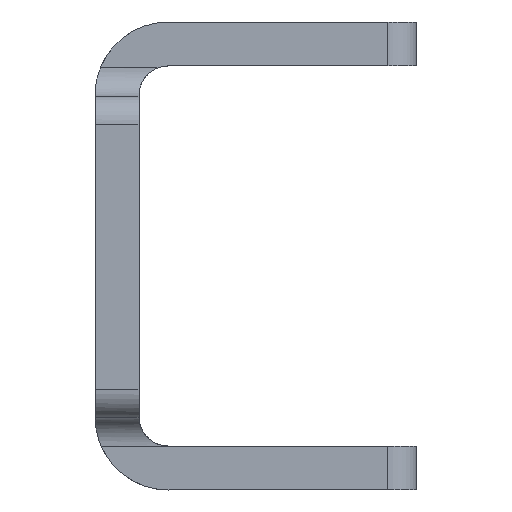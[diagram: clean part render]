
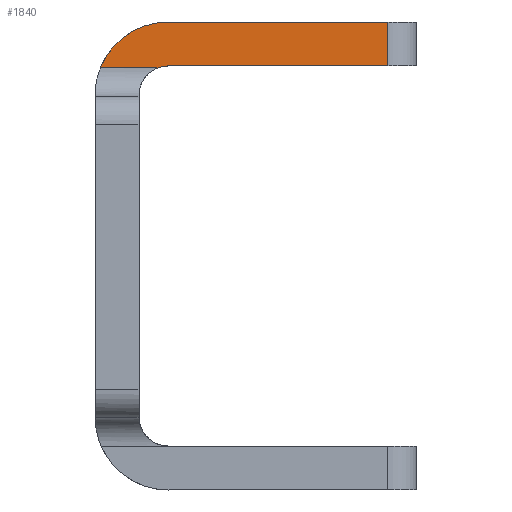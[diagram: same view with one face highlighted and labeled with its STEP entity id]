
A CAD part, left-side view. The second image highlights one B-rep face of the part: STEP entity #1840.
In plain terms, the highlighted planar face has unit normal (-1, 0, 0).
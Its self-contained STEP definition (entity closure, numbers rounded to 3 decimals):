
#1004=VECTOR('Line Direction',#1003,1.) ;
#1241=VECTOR('Line Direction',#1240,1.) ;
#1408=VECTOR('Line Direction',#1407,1.) ;
#1628=VECTOR('Line Direction',#1627,1.) ;
#407=DIRECTION('Axis2P3D Direction',(1.,0.,0.)) ;
#408=DIRECTION('Axis2P3D XDirection',(0.,0.,1.)) ;
#947=DIRECTION('Axis2P3D Direction',(1.,0.,0.)) ;
#1003=DIRECTION('Vector Direction',(0.,1.,0.)) ;
#1037=DIRECTION('Axis2P3D Direction',(1.,0.,0.)) ;
#1240=DIRECTION('Vector Direction',(0.,-1.,0.)) ;
#1407=DIRECTION('Vector Direction',(0.,-1.,0.)) ;
#1627=DIRECTION('Vector Direction',(0.,0.,-1.)) ;
#406=CARTESIAN_POINT('Axis2P3D Location',(694.578,-585.011,312.306)) ;
#943=CARTESIAN_POINT('Vertex',(694.578,-585.375,341.179)) ;
#946=CARTESIAN_POINT('Axis2P3D Location',(694.578,-590.011,339.306)) ;
#950=CARTESIAN_POINT('Vertex',(694.578,-590.011,344.306)) ;
#999=CARTESIAN_POINT('Vertex',(694.578,-589.31,341.179)) ;
#1002=CARTESIAN_POINT('Line Origine',(694.578,-596.011,341.179)) ;
#1033=CARTESIAN_POINT('Vertex',(694.578,-590.011,341.306)) ;
#1036=CARTESIAN_POINT('Axis2P3D Location',(694.578,-590.011,339.306)) ;
#1236=CARTESIAN_POINT('Vertex',(694.578,-605.011,341.306)) ;
#1239=CARTESIAN_POINT('Line Origine',(694.578,-597.511,341.306)) ;
#1406=CARTESIAN_POINT('Line Origine',(694.578,-597.511,344.306)) ;
#1410=CARTESIAN_POINT('Vertex',(694.578,-605.011,344.306)) ;
#1626=CARTESIAN_POINT('Line Origine',(694.578,-605.011,342.742)) ;
#409=AXIS2_PLACEMENT_3D('Plane Axis2P3D',#406,#407,#408) ;
#948=AXIS2_PLACEMENT_3D('Circle Axis2P3D',#946,#947,$) ;
#1038=AXIS2_PLACEMENT_3D('Circle Axis2P3D',#1036,#1037,$) ;
#952=EDGE_CURVE('',#944,#951,#949,.T.) ;
#1006=EDGE_CURVE('',#1000,#944,#1005,.T.) ;
#1040=EDGE_CURVE('',#1000,#1034,#1039,.T.) ;
#1243=EDGE_CURVE('',#1034,#1237,#1242,.T.) ;
#1412=EDGE_CURVE('',#951,#1411,#1409,.T.) ;
#1630=EDGE_CURVE('',#1411,#1237,#1629,.T.) ;
#410=PLANE('Plane',#409) ;
#1833=ORIENTED_EDGE('',*,*,#1630,.F.) ;
#1834=ORIENTED_EDGE('',*,*,#1412,.F.) ;
#1835=ORIENTED_EDGE('',*,*,#952,.F.) ;
#1836=ORIENTED_EDGE('',*,*,#1006,.F.) ;
#1837=ORIENTED_EDGE('',*,*,#1040,.T.) ;
#1838=ORIENTED_EDGE('',*,*,#1243,.T.) ;
#1005=LINE('Line',#1002,#1004) ;
#1242=LINE('Line',#1239,#1241) ;
#1409=LINE('Line',#1406,#1408) ;
#1629=LINE('Line',#1626,#1628) ;
#1840=ADVANCED_FACE('\X2\96F64EF651E04F554F53\X0\',(#1839),#410,.F.) ;
#949=CIRCLE('generated circle',#948,5.) ;
#1039=CIRCLE('generated circle',#1038,2.) ;
#944=VERTEX_POINT('',#943) ;
#951=VERTEX_POINT('',#950) ;
#1000=VERTEX_POINT('',#999) ;
#1034=VERTEX_POINT('',#1033) ;
#1237=VERTEX_POINT('',#1236) ;
#1411=VERTEX_POINT('',#1410) ;
#1832=EDGE_LOOP('',(#1833,#1834,#1835,#1836,#1837,#1838)) ;
#1839=FACE_OUTER_BOUND('',#1832,.T.) ;
